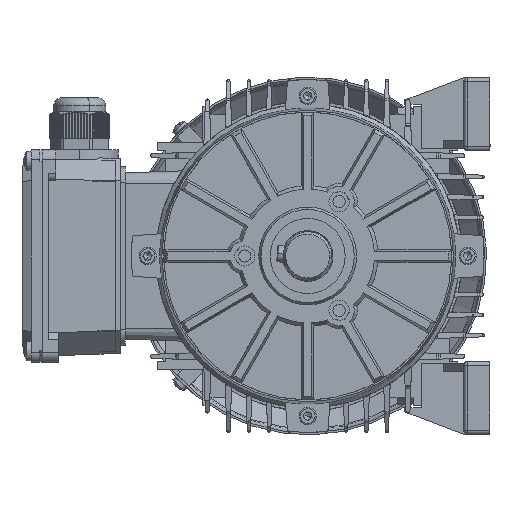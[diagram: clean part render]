
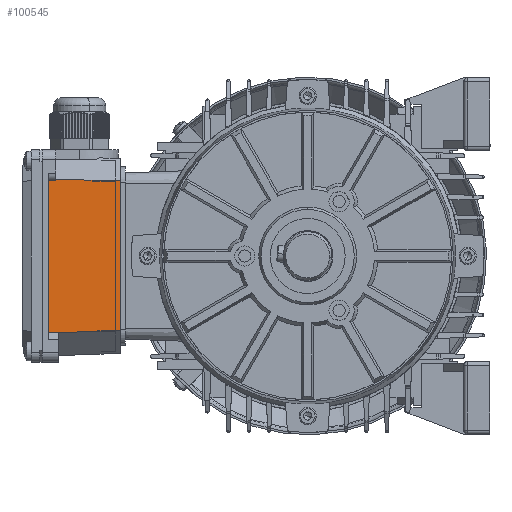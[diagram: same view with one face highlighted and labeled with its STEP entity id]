
A CAD part, left-side view. The second image highlights one B-rep face of the part: STEP entity #100545.
In plain terms, the highlighted planar face has unit normal (-0.999, -0.035, 0.001) as drawn and (-0.035, -0.001, 0.999) by its records, which use the part's own axes.
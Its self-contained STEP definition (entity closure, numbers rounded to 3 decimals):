
#1617 = AXIS2_PLACEMENT_3D ( 'NONE', #66192, #54600, #42876 ) ;
#2631 = LINE ( 'NONE', #104662, #48033 ) ;
#2967 = ORIENTED_EDGE ( 'NONE', *, *, #67777, .F. ) ;
#6946 = CARTESIAN_POINT ( 'NONE',  ( 31.875, -37.099, 49.107 ) ) ;
#9385 = CARTESIAN_POINT ( 'NONE',  ( 0., 36.95, 48.085 ) ) ;
#10537 = VERTEX_POINT ( 'NONE', #97357 ) ;
#12340 = VERTEX_POINT ( 'NONE', #93646 ) ;
#13596 = DIRECTION ( 'NONE',  ( -0.999, 0.027, -0.035 ) ) ;
#15430 = VECTOR ( 'NONE', #39570, 1000. ) ;
#17140 = ORIENTED_EDGE ( 'NONE', *, *, #21077, .F. ) ;
#20107 = VECTOR ( 'NONE', #79572, 1000. ) ;
#21077 = EDGE_CURVE ( 'NONE', #77576, #62992, #83691, .T. ) ;
#22143 = VERTEX_POINT ( 'NONE', #103967 ) ;
#22398 = VERTEX_POINT ( 'NONE', #9385 ) ;
#24495 = EDGE_CURVE ( 'NONE', #22398, #85060, #102789, .T. ) ;
#25200 = CARTESIAN_POINT ( 'NONE',  ( 40.501, -38.128, 49.407 ) ) ;
#28277 = VERTEX_POINT ( 'NONE', #6946 ) ;
#33530 = ORIENTED_EDGE ( 'NONE', *, *, #80399, .F. ) ;
#35970 = ORIENTED_EDGE ( 'NONE', *, *, #113011, .F. ) ;
#37082 = DIRECTION ( 'NONE',  ( 0., -1., -0.001 ) ) ;
#39373 = EDGE_CURVE ( 'NONE', #28277, #62992, #53055, .T. ) ;
#39570 = DIRECTION ( 'NONE',  ( 0.999, 0.027, 0.035 ) ) ;
#42876 = DIRECTION ( 'NONE',  ( -0.999, 0., -0.035 ) ) ;
#42913 = DIRECTION ( 'NONE',  ( 0.999, 0.035, 0.035 ) ) ;
#45355 = ORIENTED_EDGE ( 'NONE', *, *, #84912, .F. ) ;
#46093 = CARTESIAN_POINT ( 'NONE',  ( 35.5, -37.116, 49.234 ) ) ;
#46301 = CARTESIAN_POINT ( 'NONE',  ( 35.5, 37.901, 49.325 ) ) ;
#48033 = VECTOR ( 'NONE', #93046, 1000. ) ;
#48559 = LINE ( 'NONE', #25200, #94648 ) ;
#48739 = CARTESIAN_POINT ( 'NONE',  ( 35.5, -49.393, 49.219 ) ) ;
#49539 = DIRECTION ( 'NONE',  ( 0., -1., -0.001 ) ) ;
#51238 = CARTESIAN_POINT ( 'NONE',  ( 40.5, 38.036, 49.5 ) ) ;
#53055 =( BOUNDED_CURVE ( )  B_SPLINE_CURVE ( 3, ( #98763, #87138, #75556, #63871 ),
 .UNSPECIFIED., .F., .T. ) 
 B_SPLINE_CURVE_WITH_KNOTS ( ( 4, 4 ),
 ( 1.693, 1.726 ),
 .UNSPECIFIED. ) 
 CURVE ( )  GEOMETRIC_REPRESENTATION_ITEM ( )  RATIONAL_B_SPLINE_CURVE ( ( 1., 1., 1., 1. ) ) 
 REPRESENTATION_ITEM ( '' )  );
#54600 = DIRECTION ( 'NONE',  ( 0.035, 0.001, -0.999 ) ) ;
#54633 = CARTESIAN_POINT ( 'NONE',  ( 40.497, 38.076, 49.5 ) ) ;
#61177 = CARTESIAN_POINT ( 'NONE',  ( 31.875, -49.393, 49.092 ) ) ;
#62502 = FACE_OUTER_BOUND ( 'NONE', #85268, .T. ) ;
#62992 = VERTEX_POINT ( 'NONE', #46093 ) ;
#63871 = CARTESIAN_POINT ( 'NONE',  ( 35.5, -37.116, 49.234 ) ) ;
#66192 = CARTESIAN_POINT ( 'NONE',  ( 43.553, -49.393, 49.5 ) ) ;
#67777 = EDGE_CURVE ( 'NONE', #22398, #10537, #74578, .T. ) ;
#70742 = VECTOR ( 'NONE', #37082, 1000. ) ;
#72878 = LINE ( 'NONE', #61177, #103457 ) ;
#74578 = LINE ( 'NONE', #51238, #15430 ) ;
#75556 = CARTESIAN_POINT ( 'NONE',  ( 34.294, -37.11, 49.192 ) ) ;
#77576 = VERTEX_POINT ( 'NONE', #46301 ) ;
#77880 = PLANE ( 'NONE',  #1617 ) ;
#79572 = DIRECTION ( 'NONE',  ( 0., -1., -0.001 ) ) ;
#79659 = CARTESIAN_POINT ( 'NONE',  ( 0., -37.04, 47.995 ) ) ;
#80399 = EDGE_CURVE ( 'NONE', #10537, #22143, #2631, .T. ) ;
#83691 = LINE ( 'NONE', #48739, #70742 ) ;
#84912 = EDGE_CURVE ( 'NONE', #28277, #12340, #72878, .T. ) ;
#85060 = VERTEX_POINT ( 'NONE', #79659 ) ;
#85268 = EDGE_LOOP ( 'NONE', ( #35970, #33530, #2967, #103417, #86483, #45355, #97685, #17140 ) ) ;
#86483 = ORIENTED_EDGE ( 'NONE', *, *, #106303, .F. ) ;
#87138 = CARTESIAN_POINT ( 'NONE',  ( 33.086, -37.104, 49.15 ) ) ;
#91200 = CARTESIAN_POINT ( 'NONE',  ( 0., 87.477, 48.147 ) ) ;
#93046 = DIRECTION ( 'NONE',  ( 0., -1., -0.001 ) ) ;
#93646 = CARTESIAN_POINT ( 'NONE',  ( 31.875, -37.897, 49.106 ) ) ;
#94648 = VECTOR ( 'NONE', #13596, 1000. ) ;
#97357 = CARTESIAN_POINT ( 'NONE',  ( 30.5, 37.767, 49.151 ) ) ;
#97685 = ORIENTED_EDGE ( 'NONE', *, *, #39373, .T. ) ;
#98763 = CARTESIAN_POINT ( 'NONE',  ( 31.875, -37.099, 49.107 ) ) ;
#100545 = ADVANCED_FACE ( 'NONE', ( #62502 ), #77880, .F. ) ;
#102789 = LINE ( 'NONE', #91200, #20107 ) ;
#103363 = VECTOR ( 'NONE', #42913, 1000. ) ;
#103417 = ORIENTED_EDGE ( 'NONE', *, *, #24495, .T. ) ;
#103457 = VECTOR ( 'NONE', #49539, 1000. ) ;
#103967 = CARTESIAN_POINT ( 'NONE',  ( 30.5, 37.727, 49.151 ) ) ;
#104662 = CARTESIAN_POINT ( 'NONE',  ( 30.5, -49.393, 49.044 ) ) ;
#106303 = EDGE_CURVE ( 'NONE', #12340, #85060, #48559, .T. ) ;
#112736 = LINE ( 'NONE', #54633, #103363 ) ;
#113011 = EDGE_CURVE ( 'NONE', #22143, #77576, #112736, .T. ) ;
